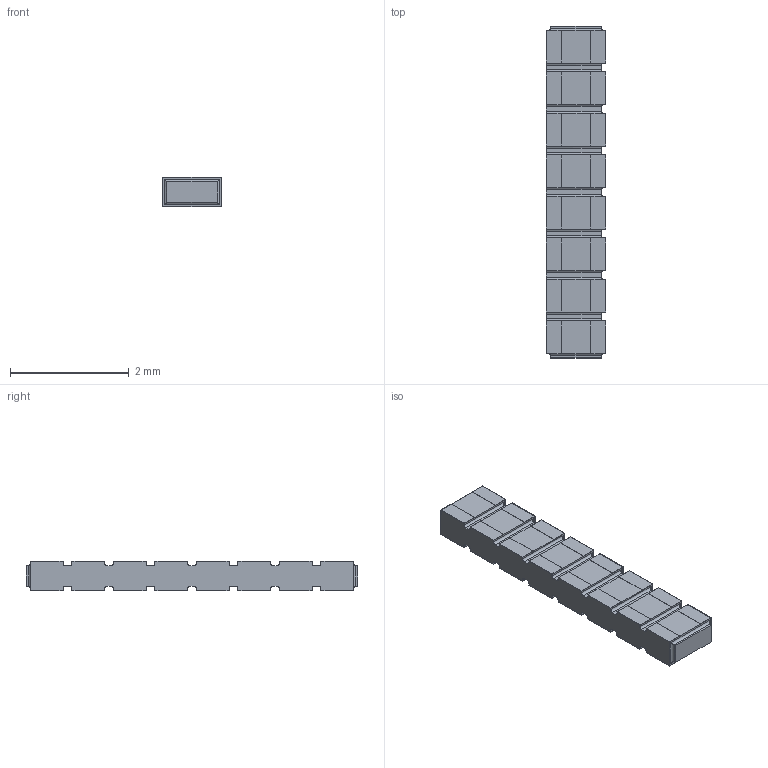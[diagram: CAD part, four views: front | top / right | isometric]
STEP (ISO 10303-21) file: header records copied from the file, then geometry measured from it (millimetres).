
FILE_DESCRIPTION(/* description */ (''),/* implementation_level */ '2;1');
FILE_NAME(/* name */ 'S:\DOCUMENT\AUTOCAD\3D_Modèles\10_3D-pour-VISHAY-COM\PRA\PRA074\PRA074-C2_à_C8\10_IGES\PRA074C8_B-or-N-or-G.stp',/* time_stamp */ '2017-12-19T14:44:27+01:00',/* author */ ('dparmentier'),/* organization */ ('unknown'),/* preprocessor_version */ 'ST-DEVELOPER v17',/* originating_system */ 'Autodesk Inventor 2018',/* authorisation */ '');
FILE_SCHEMA (('AUTOMOTIVE_DESIGN { 1 0 10303 214 3 1 1 }'));
Length unit declared in the file: millimetre
Products named in the file (1): PRA074C8_B-or-N-or-G
Bounding box: 1 x 5.6 x 0.5 mm (x, y, z)
Volume: 2.6 mm3; surface area: 37.1 mm2
Topology: 10 solids, 10 shells, 324 faces, 870 edges, 568 vertices
Faces by surface type: plane 246, cylinder 78
Entity records: 10030 total; most frequent: CARTESIAN_POINT 1763, ORIENTED_EDGE 1740, DIRECTION 1640, EDGE_CURVE 870, LINE 750, VECTOR 750, VERTEX_POINT 568, AXIS2_PLACEMENT_3D 445
